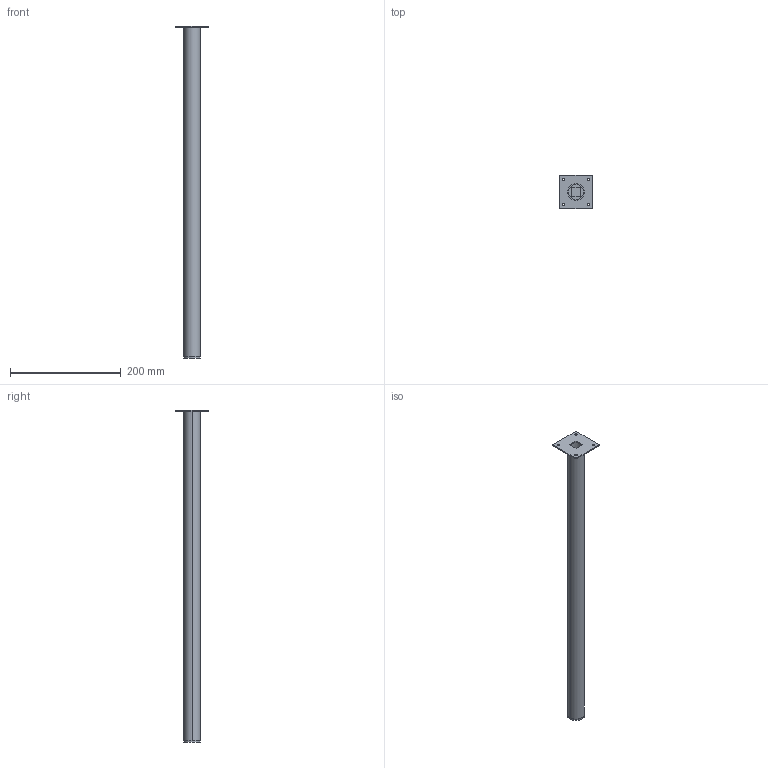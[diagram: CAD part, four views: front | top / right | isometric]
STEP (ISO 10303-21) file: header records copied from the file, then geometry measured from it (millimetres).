
FILE_DESCRIPTION( ( '' ), '1' );
FILE_NAME( 'D:/temp/hettich_stp/hettich/6.5_furniture_legs/table_legs/46281.stp', '2013-02-26T12:27:26', ( '' ), ( '' ), ' ', ' ', ' ' );
FILE_SCHEMA( ( 'automotive_design' ) );
Length unit declared in the file: millimetre
Products named in the file (1): 1
Bounding box: 60 x 60 x 600 mm (x, y, z)
Volume: 62891.3 mm3; surface area: 117392.1 mm2
Topology: 1 solids, 1 shells, 35 faces, 84 edges, 56 vertices
Faces by surface type: cylinder 20, plane 15
Entity records: 2058 total; most frequent: DIRECTION 196, STYLED_ITEM 176, PRESENTATION_STYLE_ASSIGNMENT 176, CARTESIAN_POINT 176, COLOUR_RGB 176, ORIENTED_EDGE 168, EDGE_CURVE 84, CURVE_STYLE 84
